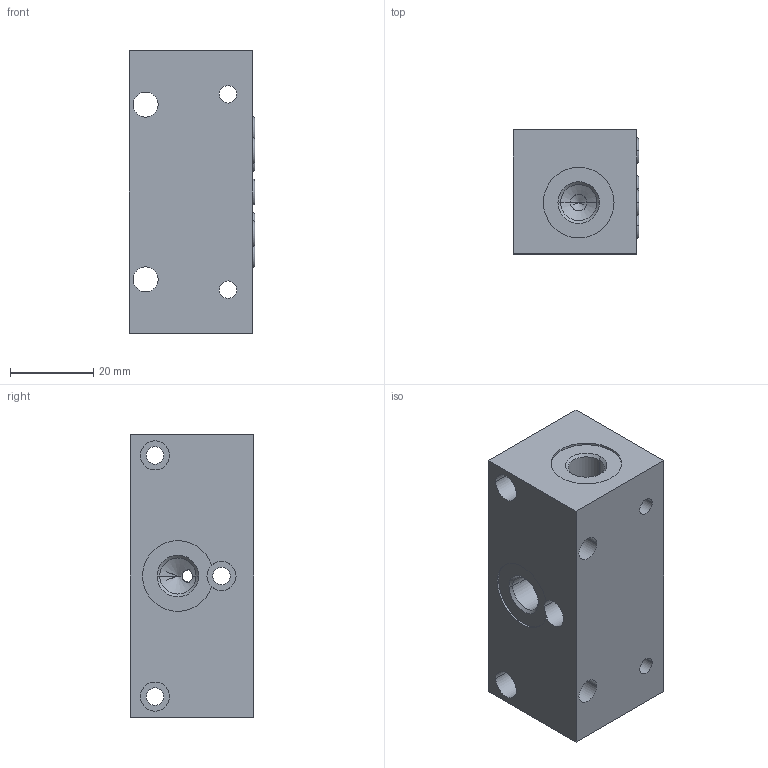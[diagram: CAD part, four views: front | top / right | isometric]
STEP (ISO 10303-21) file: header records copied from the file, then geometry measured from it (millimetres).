
FILE_DESCRIPTION((''),'2;1');
FILE_NAME('0641711_SW0001','2025-07-31T15:42:04',('lpini'),(''),'CREO PARAMETRIC BY PTC INC, 2023374','CREO PARAMETRIC BY PTC INC, 2023374','');
FILE_SCHEMA(('CONFIG_CONTROL_DESIGN'));
Length unit declared in the file: millimetre
Products named in the file (1): 0641711_SW0001
Bounding box: 30.28 x 29.8 x 68 mm (x, y, z)
Volume: 50754.9 mm3; surface area: 17198.3 mm2
Topology: 1 solids, 1 shells, 197 faces, 534 edges, 328 vertices
Faces by surface type: cylinder 115, cone 43, plane 21, torus 18
Entity records: 7425 total; most frequent: CARTESIAN_POINT 2388, DIRECTION 1100, ORIENTED_EDGE 1016, EDGE_CURVE 508, AXIS2_PLACEMENT_3D 463, VERTEX_POINT 328, CIRCLE 266, EDGE_LOOP 250
